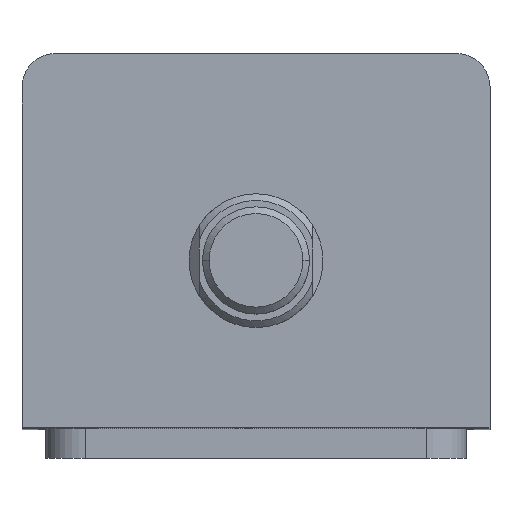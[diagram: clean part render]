
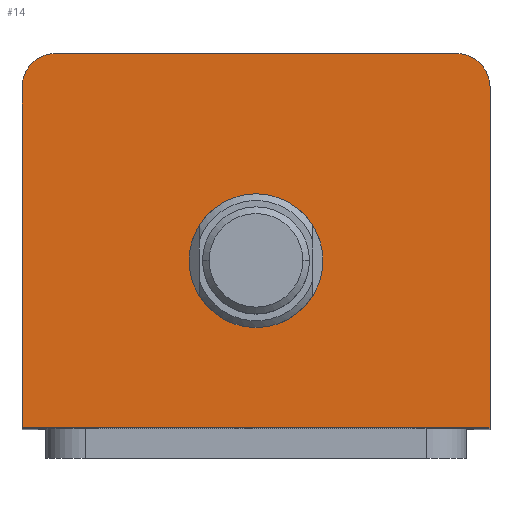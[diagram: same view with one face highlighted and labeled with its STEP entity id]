
A CAD part, top view. The second image highlights one B-rep face of the part: STEP entity #14.
In plain terms, the highlighted planar face has unit normal (0, 0, 1).
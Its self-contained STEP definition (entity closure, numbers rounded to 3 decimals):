
#14 = ADVANCED_FACE ( 'NONE', ( #456, #464 ), #1178, .T. ) ;
#177 = AXIS2_PLACEMENT_3D ( 'NONE', #2084, #2089, #2078 ) ;
#184 = AXIS2_PLACEMENT_3D ( 'NONE', #2224, #2217, #2215 ) ;
#211 = AXIS2_PLACEMENT_3D ( 'NONE', #2335, #2333, #2332 ) ;
#327 = AXIS2_PLACEMENT_3D ( 'NONE', #2559, #2558, #2557 ) ;
#415 = EDGE_LOOP ( 'NONE', ( #2926, #2925 ) ) ;
#425 = EDGE_LOOP ( 'NONE', ( #2924, #2923, #2922, #2921, #2920, #2919 ) ) ;
#456 = FACE_BOUND ( 'NONE', #415, .T. ) ;
#464 = FACE_OUTER_BOUND ( 'NONE', #425, .T. ) ;
#1171 = DIRECTION ( 'NONE',  ( 1., 0., 0. ) ) ;
#1173 = DIRECTION ( 'NONE',  ( 0., 0., 1. ) ) ;
#1178 = PLANE ( 'NONE',  #3121 ) ;
#1183 = CARTESIAN_POINT ( 'NONE',  ( 0., 0., 139. ) ) ;
#1254 = EDGE_CURVE ( 'NONE', #2798, #2778, #1607, .T. ) ;
#1277 = EDGE_CURVE ( 'NONE', #2797, #2749, #1638, .T. ) ;
#1293 = EDGE_CURVE ( 'NONE', #2749, #2800, #1673, .T. ) ;
#1310 = EDGE_CURVE ( 'NONE', #2708, #2769, #1702, .T. ) ;
#1323 = EDGE_CURVE ( 'NONE', #2800, #2708, #1718, .T. ) ;
#1332 = EDGE_CURVE ( 'NONE', #2769, #2698, #1731, .T. ) ;
#1336 = EDGE_CURVE ( 'NONE', #2698, #2797, #1737, .T. ) ;
#1349 = EDGE_CURVE ( 'NONE', #2778, #2798, #1763, .T. ) ;
#1607 = CIRCLE ( 'NONE', #327, 10. ) ;
#1638 = LINE ( 'NONE', #2496, #1645 ) ;
#1645 = VECTOR ( 'NONE', #2485, 1000. ) ;
#1673 = LINE ( 'NONE', #2444, #1676 ) ;
#1676 = VECTOR ( 'NONE', #2443, 1000. ) ;
#1702 = LINE ( 'NONE', #2382, #1705 ) ;
#1705 = VECTOR ( 'NONE', #2381, 1000. ) ;
#1718 = CIRCLE ( 'NONE', #211, 5. ) ;
#1731 = CIRCLE ( 'NONE', #184, 5. ) ;
#1737 = LINE ( 'NONE', #2190, #1740 ) ;
#1740 = VECTOR ( 'NONE', #2197, 1000. ) ;
#1763 = CIRCLE ( 'NONE', #177, 10. ) ;
#1898 = CARTESIAN_POINT ( 'NONE',  ( 30., 28., 139. ) ) ;
#1906 = CARTESIAN_POINT ( 'NONE',  ( -35., 23., 139. ) ) ;
#2078 = DIRECTION ( 'NONE',  ( 1., 0., 0. ) ) ;
#2084 = CARTESIAN_POINT ( 'NONE',  ( 0., -3., 139. ) ) ;
#2089 = DIRECTION ( 'NONE',  ( 0., 0., 1. ) ) ;
#2167 = CARTESIAN_POINT ( 'NONE',  ( 35., 23., 139. ) ) ;
#2169 = CARTESIAN_POINT ( 'NONE',  ( -10., -3., 139. ) ) ;
#2171 = CARTESIAN_POINT ( 'NONE',  ( -35., -28., 139. ) ) ;
#2190 = CARTESIAN_POINT ( 'NONE',  ( -35., 28., 139. ) ) ;
#2197 = DIRECTION ( 'NONE',  ( 0., -1., 0. ) ) ;
#2208 = CARTESIAN_POINT ( 'NONE',  ( 10., -3., 139. ) ) ;
#2215 = DIRECTION ( 'NONE',  ( 1., 0., 0. ) ) ;
#2217 = DIRECTION ( 'NONE',  ( 0., 0., 1. ) ) ;
#2221 = CARTESIAN_POINT ( 'NONE',  ( -30., 28., 139. ) ) ;
#2224 = CARTESIAN_POINT ( 'NONE',  ( -30., 23., 139. ) ) ;
#2256 = CARTESIAN_POINT ( 'NONE',  ( 35., -28., 139. ) ) ;
#2332 = DIRECTION ( 'NONE',  ( 1., 0., 0. ) ) ;
#2333 = DIRECTION ( 'NONE',  ( 0., 0., 1. ) ) ;
#2335 = CARTESIAN_POINT ( 'NONE',  ( 30., 23., 139. ) ) ;
#2381 = DIRECTION ( 'NONE',  ( -1., 0., 0. ) ) ;
#2382 = CARTESIAN_POINT ( 'NONE',  ( -35., 28., 139. ) ) ;
#2443 = DIRECTION ( 'NONE',  ( 0., 1., 0. ) ) ;
#2444 = CARTESIAN_POINT ( 'NONE',  ( 35., 28., 139. ) ) ;
#2485 = DIRECTION ( 'NONE',  ( 1., 0., 0. ) ) ;
#2496 = CARTESIAN_POINT ( 'NONE',  ( -35., -28., 139. ) ) ;
#2557 = DIRECTION ( 'NONE',  ( 1., 0., 0. ) ) ;
#2558 = DIRECTION ( 'NONE',  ( 0., 0., 1. ) ) ;
#2559 = CARTESIAN_POINT ( 'NONE',  ( 0., -3., 139. ) ) ;
#2698 = VERTEX_POINT ( 'NONE', #1906 ) ;
#2708 = VERTEX_POINT ( 'NONE', #1898 ) ;
#2749 = VERTEX_POINT ( 'NONE', #2256 ) ;
#2769 = VERTEX_POINT ( 'NONE', #2221 ) ;
#2778 = VERTEX_POINT ( 'NONE', #2208 ) ;
#2797 = VERTEX_POINT ( 'NONE', #2171 ) ;
#2798 = VERTEX_POINT ( 'NONE', #2169 ) ;
#2800 = VERTEX_POINT ( 'NONE', #2167 ) ;
#2919 = ORIENTED_EDGE ( 'NONE', *, *, #1277, .T. ) ;
#2920 = ORIENTED_EDGE ( 'NONE', *, *, #1336, .T. ) ;
#2921 = ORIENTED_EDGE ( 'NONE', *, *, #1332, .T. ) ;
#2922 = ORIENTED_EDGE ( 'NONE', *, *, #1310, .T. ) ;
#2923 = ORIENTED_EDGE ( 'NONE', *, *, #1323, .T. ) ;
#2924 = ORIENTED_EDGE ( 'NONE', *, *, #1293, .T. ) ;
#2925 = ORIENTED_EDGE ( 'NONE', *, *, #1254, .F. ) ;
#2926 = ORIENTED_EDGE ( 'NONE', *, *, #1349, .F. ) ;
#3121 = AXIS2_PLACEMENT_3D ( 'NONE', #1183, #1173, #1171 ) ;
